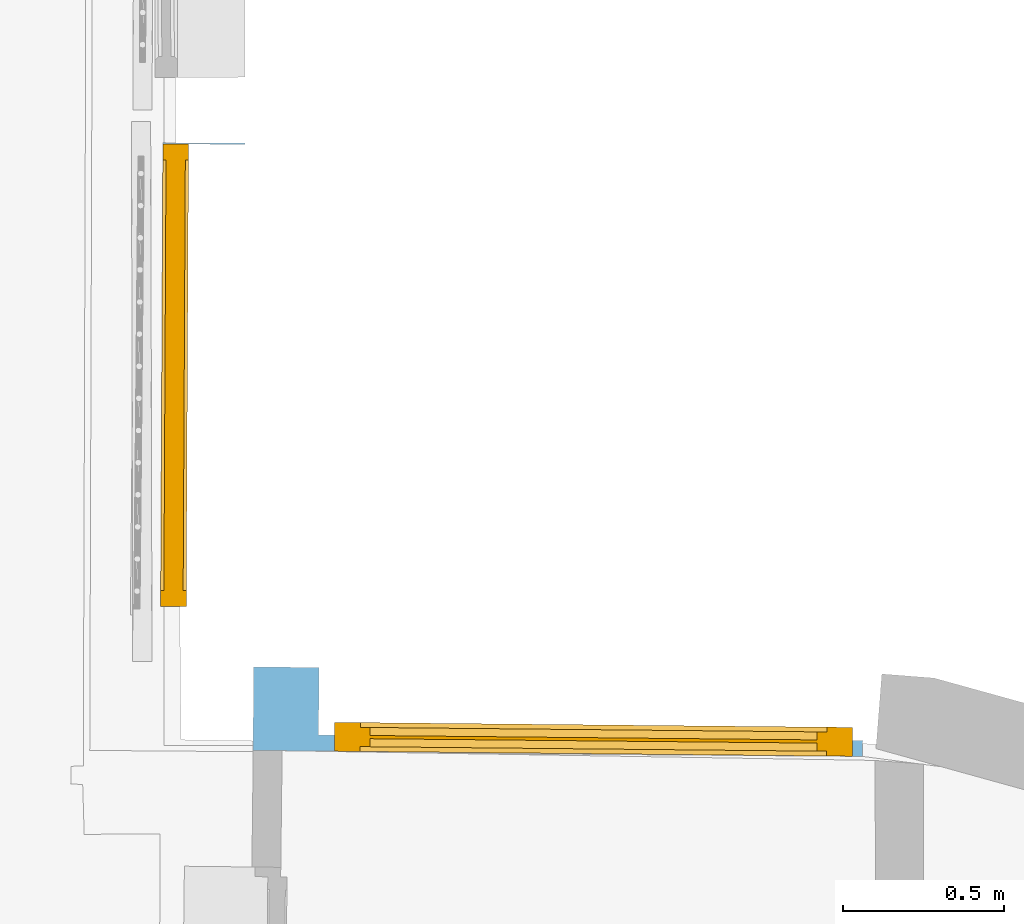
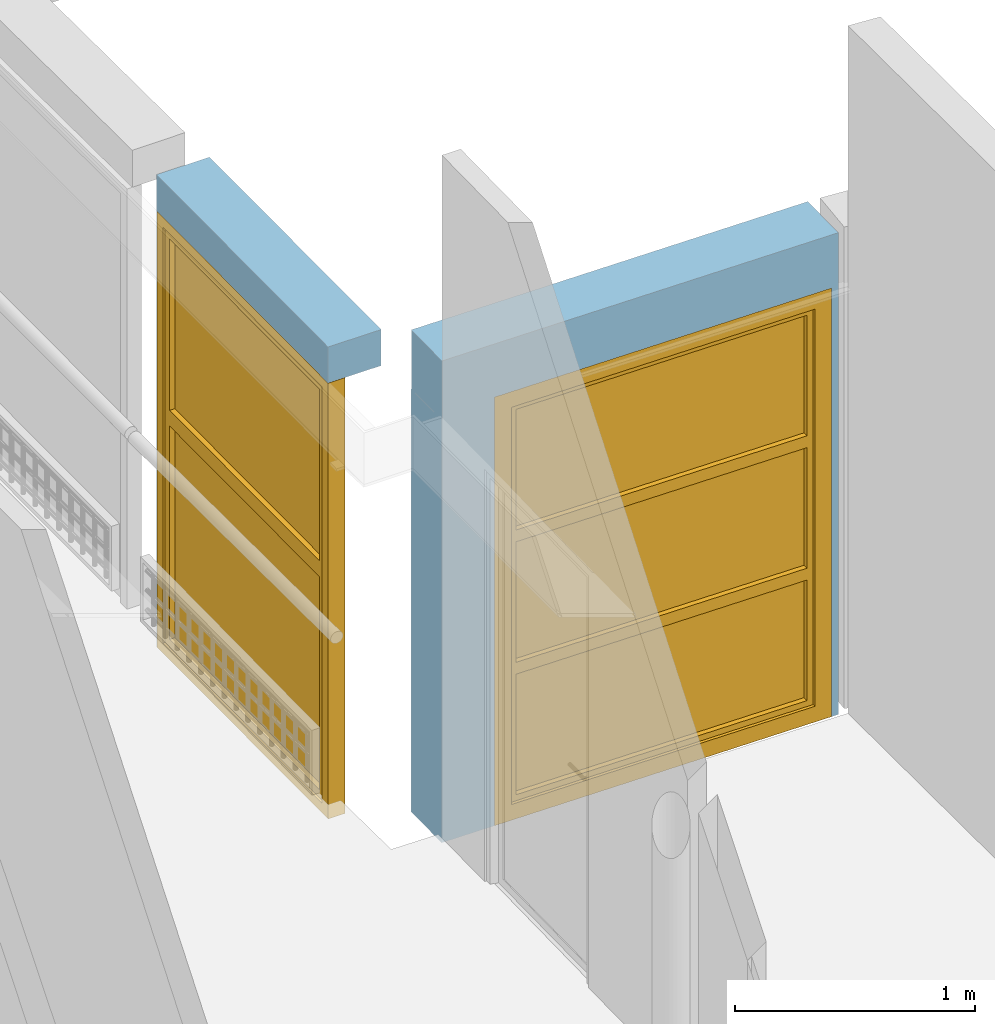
# One storey, part 55 of 72: 2 windows, 2 openings, plus 2 elements that do not belong to this part.
"""IFC2X3 building model written with IfcOpenShell, lengths in centimetres."""

from ifc_helpers import new_model, entity, si_unit, converted_unit, direction, frame, origin, origin_with_axes, origin_2d_with_axis, place, context, subcontext, project, spatial, polyline, rectangle, outline, extrude, clip, bounded_halfspace, faceted_brep, shape, source, transform, mapped, material, material_list, layer, layer_set, layer_usage, type_object, element, fill, save


model = new_model("IFC2X3")

# Units and contexts
model_context = context("Model", 3, precision=0.0001, world=origin(), true_north=direction((0.225632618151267, 0.974212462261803, 0.0)))
body_context = subcontext(model_context, "Body", "Model", "MODEL_VIEW")
footprint_context = subcontext(model_context, "FootPrint", "Model", "MODEL_VIEW")
profile_context = subcontext(model_context, "Profile", "Model", "MODEL_VIEW")
ifc_project = project(units=[si_unit("LENGTHUNIT", "METRE", prefix="CENTI"), si_unit("AREAUNIT", "SQUARE_METRE", prefix="CENTI"), si_unit("VOLUMEUNIT", "CUBIC_METRE", prefix="CENTI"), converted_unit("PLANEANGLEUNIT", "DEGREE", entity("IfcRatioMeasure", 0.0174532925), si_unit("PLANEANGLEUNIT", "RADIAN"), dimensions=[0, 0, 0, 0, 0, 0, 0])], contexts=[model_context])

# Site, building, storey
site_placement = place(None, origin_with_axes())
site = spatial("IfcSite", under=ifc_project, at=site_placement, Name="Default Site", CompositionType="ELEMENT")
building_placement = place(site_placement, origin_with_axes())
building = spatial("IfcBuilding", under=site, at=building_placement, Name="Default Building", CompositionType="ELEMENT")
storey_placement = place(building_placement, frame((0.0, 0.0, 853.910374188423), z_axis=(0.0, 0.0, 1.0), x_axis=(1.0, 0.0, 0.0)))
storey = spatial("IfcBuildingStorey", under=building, at=storey_placement, Name="Niveau 2", CompositionType="ELEMENT", Elevation=853.910374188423)

# Wall, opening, window
ifc_material_1 = material(Name="<aucun>")
ifc_layer_1 = layer(ifc_material_1, 26.0)
ifc_layer_set_1 = layer_set([ifc_layer_1], Name="default")
ifc_layer_usage_1 = layer_usage(ifc_layer_set_1, "AXIS2", "POSITIVE", -13.0)
wall_type_1 = type_object("IfcWallType", Name="default 260", PredefinedType="NOTDEFINED", material=ifc_layer_set_1)
wall_1_placement = place(storey_placement, frame((1291.15030565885, -210.44632109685, 7.8159700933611e-12), z_axis=(0.0, 0.0, 1.0), x_axis=(-0.999951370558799, 0.00986187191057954, 0.0)))
wall_1 = element("IfcWallStandardCase", 1, at=wall_1_placement, inside=storey, type_object=wall_type_1, material=ifc_layer_usage_1, Name="Enveloppe 537553", context=body_context, shape_type="Clipping", body=[
    clip(extrude(rectangle(XDim=26.0000371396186, YDim=189.785412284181, at=origin_2d_with_axis()), frame((96.6682236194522, -0.000186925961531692, 1.77635683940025e-13), z_axis=(0.0, 0.0, 1.0), x_axis=(1.40878318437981e-08, -1.0, 0.0)), (0.0, 0.0, 1.0), 244.999999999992), bounded_halfspace(frame((191.560929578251, 13.0000000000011, 214.999999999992), z_axis=(0.0, 0.0, -1.0), x_axis=(-1.0, 8.65800486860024e-14, 0.0)), True, frame((191.560929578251, 13.0000000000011, 214.999999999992), z_axis=(0.0, 0.0, 1.0), x_axis=(1.0, 0.0, 0.0)), polyline([(-0.150318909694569, -26.0), (1.77635683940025e-13, -26.0), (0.0, 0.0), (-0.0999999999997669, -4.44089209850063e-14), (-0.150318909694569, -26.0)]))),
])
opening_1_placement = place(wall_1_placement, frame((-1.77351466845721e-11, -2.8421709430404e-14, 3.5527136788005e-13), z_axis=(0.0, 0.0, 1.0), x_axis=(-1.0, -5.93969318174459e-15, 0.0)))
cartesian_point_1 = entity("IfcCartesianPoint", [0.0, 0.0, 218.0])
cartesian_point_2 = entity("IfcCartesianPoint", [-171.19581333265, -13.0])
opening_1 = element("IfcOpeningElement", 2, at=opening_1_placement, cuts=wall_1, Name="4294966493_11", ObjectType="Opening", shapes=[
    shape(body_context, "Body", "Brep", [faceted_brep([(-5.00004530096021, -32.9999935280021, 218.000007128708), (-166.195818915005, -32.9999935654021, 218.000007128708), (-166.195818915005, -32.9999935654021, -2.33888705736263e-05), (-5.00004530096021, -32.9999935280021, -2.33888705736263e-05), (2.5435651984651e-05, 32.9999991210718, -2.33888705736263e-05), (-171.195795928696, 32.9999990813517, -2.33888705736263e-05), (-171.195795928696, 32.9999990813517, 218.000007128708), (2.5435651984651e-05, 32.9999991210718, 218.000007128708), (-5.00004530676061, -7.99999300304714, -2.33888705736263e-05), (-5.00004530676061, -7.99999300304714, 218.000007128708), (-4.99997192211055, -7.99999300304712, 218.000007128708), (-4.99997192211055, -7.99999300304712, -2.33888705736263e-05), (4.15408170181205e-06, -7.99999300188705, -2.33888705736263e-05), (4.15408170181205e-06, -7.99999300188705, 218.000007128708), (4.15408170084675e-06, -7.99998884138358, 218.000007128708), (4.15408170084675e-06, -7.99998884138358, -2.33888705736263e-05), (4.14456904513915e-06, 32.9999991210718, -2.33888705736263e-05), (4.14456904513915e-06, 32.9999991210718, 218.000007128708), (-166.195818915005, -33.0000058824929, -2.33888705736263e-05), (-166.195840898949, -8.00000629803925, -2.33888705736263e-05), (-171.195816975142, -8.00001045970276, -2.33888705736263e-05), (-171.195795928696, 33.0000013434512, -2.33888705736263e-05), (-166.195818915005, -33.0000058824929, 218.000007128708), (-166.195818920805, -8.00000629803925, 218.000007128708), (-166.195818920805, -8.00000629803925, -2.33888705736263e-05), (-166.195840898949, -8.00000629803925, 218.000007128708), (-171.195816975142, -8.00000629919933, 218.000007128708), (-171.195816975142, -8.00000629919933, -2.33888705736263e-05), (-171.195816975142, -8.00001045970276, 218.000007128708), (-171.195816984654, 33.0000013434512, 218.000007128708), (-171.195816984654, 33.0000013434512, -2.33888705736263e-05), (-171.195795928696, 33.0000013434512, 218.000007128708)], [[[0, 1, 2, 3]], [[4, 5, 6, 7]], [[0, 3, 8, 9]], [[10, 11, 12, 13]], [[14, 15, 16, 17]], [[3, 18, 19, 20, 21, 4, 15, 11]], [[18, 22, 23, 24]], [[19, 25, 26, 27]], [[20, 28, 29, 30]], [[10, 14, 7, 31, 28, 25, 22, 0]]])]),
    shape(profile_context, "Profile", "GeometricCurveSet", [entity("IfcGeometricCurveSet", [entity("IfcPolyline", [cartesian_point_1, entity("IfcCartesianPoint", [0.0, 0.0, 0.0]), entity("IfcCartesianPoint", [-171.19581333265, -2.22044604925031e-14, 0.0]), entity("IfcCartesianPoint", [-171.19581333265, -2.22044604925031e-14, 218.0]), cartesian_point_1])])]),
    shape(footprint_context, "FootPrint", "GeometricCurveSet", [entity("IfcGeometricCurveSet", [entity("IfcPolyline", [cartesian_point_2, entity("IfcCartesianPoint", [0.0, -13.0]), entity("IfcCartesianPoint", [1.77635683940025e-13, 13.0]), entity("IfcCartesianPoint", [-171.19581333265, 13.0]), cartesian_point_2])])]),
])
ifc_material_2 = material(Name="Transparent")
ifc_material_3 = material(Name="Blanc trafic")
ifc_material_list = material_list([ifc_material_2, ifc_material_3])
window_style_1 = type_object("IfcWindowStyle", Name="Fn 1 montant fixe 2 vitres ép 90", ConstructionType="NOTDEFINED", OperationType="TRIPLE_PANEL_HORIZONTAL", ParameterTakesPrecedence=True, Sizeable=False, material=ifc_material_list)
shared_shape_1 = source(origin_with_axes(), body_context, "Body", "Brep", [
    faceted_brep([(-72.5979089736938, 209.999990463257, -4.50000017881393), (-72.5979089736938, 209.999990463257, 4.50000017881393), (-72.5979089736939, 7.99999982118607, 4.50000017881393), (-72.5979089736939, 7.99999982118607, -4.50000017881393), (-80.5979073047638, 218.00000667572, 4.50000017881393), (-80.5979073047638, 2.22044604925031e-14, 4.50000017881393), (-72.5979089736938, 7.99999982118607, 4.50000017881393), (-80.5979073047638, 218.00000667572, -4.50000017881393), (-80.5979073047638, 2.22044604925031e-14, -4.50000017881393), (-72.5979089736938, 7.99999982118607, -4.50000017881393), (72.5979089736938, 7.99999982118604, 4.50000017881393), (72.5979089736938, 7.99999982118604, -4.50000017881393), (80.5979073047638, 2.22044604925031e-14, 4.50000017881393), (72.5979089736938, 7.99999982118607, 4.50000017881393), (80.5979073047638, 2.22044604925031e-14, -4.50000017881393), (72.5979089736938, 7.99999982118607, -4.50000017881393), (72.5979089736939, 209.999990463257, 4.50000017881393), (72.5979089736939, 209.999990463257, -4.50000017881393), (80.5979073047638, 218.00000667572, 4.50000017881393), (72.5979089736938, 209.999990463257, 4.50000017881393), (80.5979073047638, 218.00000667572, -4.50000017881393), (72.5979089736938, 209.999990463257, -4.50000017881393)], [[[0, 1, 2, 3]], [[1, 4, 5, 6]], [[4, 7, 8, 5]], [[7, 0, 9, 8]], [[9, 6, 10, 11]], [[6, 5, 12, 13]], [[5, 8, 14, 12]], [[8, 9, 15, 14]], [[15, 13, 16, 17]], [[13, 12, 18, 19]], [[12, 14, 20, 18]], [[14, 15, 21, 20]], [[21, 19, 1, 0]], [[19, 18, 4, 1]], [[18, 20, 7, 4]], [[20, 21, 0, 7]]]),
    faceted_brep([(-69.5979058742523, 206.99999332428, -2.99999993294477), (-69.5979058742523, 206.99999332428, 2.99999993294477), (-69.5979058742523, 145.666670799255, 2.99999993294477), (-69.5979058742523, 145.666670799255, -2.99999993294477), (-72.5979089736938, 209.999990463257, 2.99999993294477), (-72.5979089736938, 142.666661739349, 2.99999993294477), (-72.5979089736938, 209.999990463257, -2.99999993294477), (-72.5979089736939, 142.666661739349, -2.99999993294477), (-72.5979089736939, 142.666661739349, 2.99999993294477), (-72.5979089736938, 142.666661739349, -2.99999993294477), (69.5979058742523, 145.666670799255, 2.99999993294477), (69.5979058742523, 145.666670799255, -2.99999993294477), (72.5979089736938, 142.666661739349, 2.99999993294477), (72.5979089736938, 142.666661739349, -2.99999993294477), (69.5979058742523, 206.99999332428, 2.99999993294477), (69.5979058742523, 206.99999332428, -2.99999993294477), (72.5979089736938, 209.999990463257, 2.99999993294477), (69.5979058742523, 206.99999332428, 2.99999993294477), (72.5979089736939, 209.999990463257, -2.99999993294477), (72.5979089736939, 209.999990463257, 2.99999993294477), (69.5979058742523, 206.99999332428, -2.99999993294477), (72.5979089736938, 209.999990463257, -2.99999993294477)], [[[0, 1, 2, 3]], [[1, 4, 5, 2]], [[4, 6, 7, 8]], [[6, 0, 3, 9]], [[3, 2, 10, 11]], [[2, 5, 12, 10]], [[5, 9, 13, 12]], [[9, 3, 11, 13]], [[11, 10, 14, 15]], [[10, 12, 16, 17]], [[12, 13, 18, 19]], [[13, 11, 20, 21]], [[20, 17, 1, 0]], [[17, 16, 4, 1]], [[16, 21, 6, 4]], [[21, 20, 0, 6]]]),
    faceted_brep([(69.5979058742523, 206.99999332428, -0.499999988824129), (69.5979058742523, 145.666670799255, -0.499999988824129), (-69.5979058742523, 145.666670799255, -0.499999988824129), (-69.5979058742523, 206.99999332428, -0.499999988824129), (-69.5979058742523, 206.99999332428, 0.499999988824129), (-69.5979058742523, 145.666670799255, 0.499999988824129), (69.5979058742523, 145.666670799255, 0.499999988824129), (69.5979058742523, 206.99999332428, 0.499999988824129), (69.5979058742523, 206.99999332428, -0.499999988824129), (69.5979058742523, 206.99999332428, 0.499999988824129)], [[[0, 1, 2, 3]], [[4, 5, 6, 7]], [[3, 2, 5, 4]], [[2, 1, 6, 5]], [[1, 8, 9, 6]], [[0, 3, 4, 7]]]),
    faceted_brep([(-69.5979058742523, 139.666664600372, -2.99999993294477), (-69.5979058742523, 139.666664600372, 2.99999993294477), (-69.5979058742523, 78.3333361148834, 2.99999993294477), (-69.5979058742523, 78.3333361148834, -2.99999993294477), (-72.5979089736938, 142.666661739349, 2.99999993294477), (-72.5979089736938, 75.3333330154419, 2.99999993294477), (-72.5979089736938, 142.666661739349, -2.99999993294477), (-72.5979089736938, 75.3333330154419, -2.99999993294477), (69.5979058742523, 78.3333361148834, 2.99999993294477), (69.5979058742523, 78.3333361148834, -2.99999993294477), (72.5979089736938, 75.3333330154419, 2.99999993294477), (72.5979089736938, 75.3333330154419, -2.99999993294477), (69.5979058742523, 139.666664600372, 2.99999993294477), (69.5979058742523, 139.666664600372, -2.99999993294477), (72.5979089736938, 142.666661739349, 2.99999993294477), (72.5979089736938, 142.666661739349, -2.99999993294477)], [[[0, 1, 2, 3]], [[1, 4, 5, 2]], [[4, 6, 7, 5]], [[6, 0, 3, 7]], [[3, 2, 8, 9]], [[2, 5, 10, 8]], [[5, 7, 11, 10]], [[7, 3, 9, 11]], [[9, 8, 12, 13]], [[8, 10, 14, 12]], [[10, 11, 15, 14]], [[11, 9, 13, 15]], [[13, 12, 1, 0]], [[12, 14, 4, 1]], [[14, 15, 6, 4]], [[15, 13, 0, 6]]]),
    faceted_brep([(69.5979058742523, 139.666664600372, -0.499999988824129), (69.5979058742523, 78.3333361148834, -0.499999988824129), (-69.5979058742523, 78.3333361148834, -0.499999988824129), (-69.5979058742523, 139.666664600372, -0.499999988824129), (-69.5979058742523, 139.666664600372, 0.499999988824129), (-69.5979058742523, 78.3333361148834, 0.499999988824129), (69.5979058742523, 78.3333361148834, 0.499999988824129), (69.5979058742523, 139.666664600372, 0.499999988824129)], [[[0, 1, 2, 3]], [[4, 5, 6, 7]], [[3, 2, 5, 4]], [[2, 1, 6, 5]], [[1, 0, 7, 6]], [[0, 3, 4, 7]]]),
    faceted_brep([(-69.5979058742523, 72.3333358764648, -2.99999993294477), (-69.5979058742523, 72.3333358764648, 2.99999993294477), (-69.5979058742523, 10.9999999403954, 2.99999993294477), (-69.5979058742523, 10.9999999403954, -2.99999993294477), (-72.5979089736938, 75.3333330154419, 2.99999993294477), (-72.5979089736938, 7.99999982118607, 2.99999993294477), (-72.5979089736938, 75.3333330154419, -2.99999993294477), (-72.5979089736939, 7.99999982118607, -2.99999993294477), (-72.5979089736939, 7.99999982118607, 2.99999993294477), (-72.5979089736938, 7.99999982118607, -2.99999993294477), (69.5979058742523, 10.9999999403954, 2.99999993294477), (69.5979058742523, 10.9999999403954, -2.99999993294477), (72.5979089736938, 7.99999982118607, 2.99999993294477), (72.5979089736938, 7.99999982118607, -2.99999993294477), (69.5979058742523, 72.3333358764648, 2.99999993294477), (69.5979058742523, 72.3333358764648, -2.99999993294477), (72.5979089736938, 75.3333330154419, 2.99999993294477), (69.5979058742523, 72.3333358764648, 2.99999993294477), (72.5979089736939, 75.3333330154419, -2.99999993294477), (72.5979089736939, 75.3333330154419, 2.99999993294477), (69.5979058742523, 72.3333358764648, -2.99999993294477), (72.5979089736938, 75.3333330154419, -2.99999993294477)], [[[0, 1, 2, 3]], [[1, 4, 5, 2]], [[4, 6, 7, 8]], [[6, 0, 3, 9]], [[3, 2, 10, 11]], [[2, 5, 12, 10]], [[5, 9, 13, 12]], [[9, 3, 11, 13]], [[11, 10, 14, 15]], [[10, 12, 16, 17]], [[12, 13, 18, 19]], [[13, 11, 20, 21]], [[20, 17, 1, 0]], [[17, 16, 4, 1]], [[16, 21, 6, 4]], [[21, 20, 0, 6]]]),
    faceted_brep([(69.5979058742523, 72.3333358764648, -0.499999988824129), (69.5979058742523, 10.9999999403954, -0.499999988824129), (-69.5979058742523, 10.9999999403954, -0.499999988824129), (-69.5979058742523, 72.3333358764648, -0.499999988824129), (-69.5979058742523, 72.3333358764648, 0.499999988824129), (-69.5979058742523, 10.9999999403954, 0.499999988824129), (69.5979058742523, 10.9999999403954, 0.499999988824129), (69.5979058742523, 72.3333358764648, 0.499999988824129), (69.5979058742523, 72.3333358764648, -0.499999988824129), (69.5979058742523, 72.3333358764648, 0.499999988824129)], [[[0, 1, 2, 3]], [[4, 5, 6, 7]], [[3, 2, 5, 4]], [[2, 1, 6, 5]], [[1, 8, 9, 6]], [[0, 3, 4, 7]]]),
])
window_1_placement = place(opening_1_placement, frame((-166.19581333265, -13.0, -1.77635683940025e-15), z_axis=(0.0, 0.0, 1.0), x_axis=(1.0, 0.0, 0.0)))
window_1 = element("IfcWindow", 3, at=window_1_placement, inside=storey, type_object=window_style_1, material=ifc_material_list, Name="Fenêtre 551114", OverallHeight=218.0, OverallWidth=161.19581333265, context=body_context, shape_type="MappedRepresentation", body=[
    mapped(shared_shape_1, transform((80.5979066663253, 4.49999999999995, 0.0), x_axis=(-1.0, 0.0, 0.0), y_axis=(0.0, 0.0, 1.0), z_axis=(0.0, 1.0, 0.0), scale=1.0, scale2=1.0, scale3=1.0, uniform=False)),
])
fill(opening_1, window_1)

ifc_layer_2 = layer(ifc_material_1, 25.5)
ifc_layer_set_2 = layer_set([ifc_layer_2], Name="default")
ifc_layer_usage_2 = layer_usage(ifc_layer_set_2, "AXIS2", "POSITIVE", -12.75)
wall_type_2 = type_object("IfcWallType", Name="default 255", PredefinedType="NOTDEFINED", material=ifc_layer_set_2)
wall_2_placement = place(storey_placement, frame((1083.47369991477, -176.791939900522, -5.00000000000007), z_axis=(0.0, 0.0, 1.0), x_axis=(0.00502234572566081, 0.999987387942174, 0.0)))
wall_2 = element("IfcWallStandardCase", 4, at=wall_2_placement, inside=storey, type_object=wall_type_2, material=ifc_layer_usage_2, Name="Enveloppe 728289", context=body_context, shape_type="SweptSolid", body=[
    extrude(rectangle(XDim=144.247514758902, YDim=25.4999999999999, at=origin_2d_with_axis()), frame((72.2010637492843, 0.00023335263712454, 1.06581410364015e-12), z_axis=(0.0, 0.0, 1.0), x_axis=(0.999999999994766, 3.23544758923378e-06, 0.0)), (0.0, 0.0, 1.0), 239.999999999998),
])
opening_2_placement = place(wall_2_placement, frame((-0.00707307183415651, 2.27373675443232e-13, -2.4297279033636e-05), z_axis=(0.0, 0.0, 1.0), x_axis=(-1.0, -1.99493199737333e-17, 0.0)))
cartesian_point_3 = entity("IfcCartesianPoint", [-2.22044604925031e-14, 0.0, 221.677255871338])
cartesian_point_4 = entity("IfcCartesianPoint", [-143.934555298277, -12.7499999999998])
opening_2 = element("IfcOpeningElement", 5, at=opening_2_placement, cuts=wall_2, Name="4294966484_11", ObjectType="Opening", shapes=[
    shape(body_context, "Body", "SweptSolid", [extrude(outline(polyline([(2.22044604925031e-14, 221.677255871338), (0.0, 0.0), (143.934555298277, 0.0), (143.934555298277, 221.677255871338), (2.22044604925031e-14, 221.677255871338)])), frame((0.0, -22.75, 0.0), z_axis=(0.0, 1.0, 0.0), x_axis=(-1.0, 0.0, 0.0)), (0.0, 0.0, 1.0), 45.5)]),
    shape(profile_context, "Profile", "GeometricCurveSet", [entity("IfcGeometricCurveSet", [entity("IfcPolyline", [cartesian_point_3, entity("IfcCartesianPoint", [0.0, 0.0, 0.0]), entity("IfcCartesianPoint", [-143.934555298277, 1.77635683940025e-13, 0.0]), entity("IfcCartesianPoint", [-143.934555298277, 1.77635683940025e-13, 221.677255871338]), cartesian_point_3])])]),
    shape(footprint_context, "FootPrint", "GeometricCurveSet", [entity("IfcGeometricCurveSet", [entity("IfcPolyline", [cartesian_point_4, entity("IfcCartesianPoint", [0.0, -12.7499999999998]), entity("IfcCartesianPoint", [-2.22044604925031e-14, 12.7500000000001]), entity("IfcCartesianPoint", [-143.934555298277, 12.7500000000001]), cartesian_point_4])])]),
])
window_style_2 = type_object("IfcWindowStyle", Name="FN fixe 1 section", ConstructionType="NOTDEFINED", OperationType="NOTDEFINED", ParameterTakesPrecedence=True, Sizeable=False, material=ifc_material_list)
shared_shape_2 = source(origin_with_axes(), body_context, "Body", "Brep", [
    faceted_brep([(-66.9672787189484, 216.677260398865, -3.99999991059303), (-66.9672787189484, 216.677260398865, 3.99999991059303), (-66.9672787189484, 5.00000007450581, 3.99999991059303), (-66.9672787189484, 5.00000007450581, -3.99999991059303), (-71.9672799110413, 221.677255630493, 3.99999991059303), (-71.9672799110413, 1.77635683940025e-13, 3.99999991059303), (-71.9672799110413, 221.677255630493, -3.99999991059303), (-71.9672799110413, 1.77635683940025e-13, -3.99999991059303), (66.9672787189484, 5.00000007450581, 3.99999991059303), (66.9672787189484, 5.00000007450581, -3.99999991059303), (71.9672799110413, 1.77635683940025e-13, 3.99999991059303), (71.9672799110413, 1.77635683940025e-13, -3.99999991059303), (66.9672787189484, 216.677260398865, 3.99999991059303), (66.9672787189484, 216.677260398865, -3.99999991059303), (71.9672799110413, 221.677255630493, 3.99999991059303), (71.9672799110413, 221.677255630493, -3.99999991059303)], [[[0, 1, 2, 3]], [[1, 4, 5, 2]], [[4, 6, 7, 5]], [[6, 0, 3, 7]], [[3, 2, 8, 9]], [[2, 5, 10, 8]], [[5, 7, 11, 10]], [[7, 3, 9, 11]], [[9, 8, 12, 13]], [[8, 10, 14, 12]], [[10, 11, 15, 14]], [[11, 9, 13, 15]], [[13, 12, 1, 0]], [[12, 14, 4, 1]], [[14, 15, 6, 4]], [[15, 13, 0, 6]]]),
    faceted_brep([(-62.9672765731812, 117.422485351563, -2.99999993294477), (-62.9672765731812, 117.422485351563, 2.99999993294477), (-62.9672765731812, 9.00000035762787, 2.99999993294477), (-62.9672765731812, 9.00000035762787, -2.99999993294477), (-66.9672787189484, 121.422493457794, 2.99999993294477), (-66.9672787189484, 5.00000007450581, 2.99999993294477), (-66.9672787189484, 121.422493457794, -2.99999993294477), (-66.9672787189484, 5.00000007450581, -2.99999993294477), (62.9672765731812, 9.00000035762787, 2.99999993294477), (62.9672765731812, 9.00000035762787, -2.99999993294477), (66.9672787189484, 5.00000007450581, 2.99999993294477), (66.9672787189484, 5.00000007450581, -2.99999993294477), (62.9672765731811, 117.422485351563, 2.99999993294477), (62.9672765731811, 117.422485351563, -2.99999993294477), (66.9672787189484, 121.422493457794, 2.99999993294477), (62.9672765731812, 117.422485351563, 2.99999993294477), (66.9672787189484, 121.422493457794, -2.99999993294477), (62.9672765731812, 117.422485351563, -2.99999993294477)], [[[0, 1, 2, 3]], [[1, 4, 5, 2]], [[4, 6, 7, 5]], [[6, 0, 3, 7]], [[3, 2, 8, 9]], [[2, 5, 10, 8]], [[5, 7, 11, 10]], [[7, 3, 9, 11]], [[9, 8, 12, 13]], [[8, 10, 14, 15]], [[10, 11, 16, 14]], [[11, 9, 17, 16]], [[17, 15, 1, 0]], [[15, 14, 4, 1]], [[14, 16, 6, 4]], [[16, 17, 0, 6]]]),
    faceted_brep([(62.9672765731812, 117.422485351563, -0.499999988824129), (62.9672765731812, 9.00000035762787, -0.499999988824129), (-62.9672765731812, 9.00000035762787, -0.499999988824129), (-62.9672765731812, 117.422485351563, -0.499999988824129), (-62.9672765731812, 117.422485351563, 0.499999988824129), (-62.9672765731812, 9.00000035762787, 0.499999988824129), (62.9672765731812, 9.00000035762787, 0.499999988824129), (62.9672765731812, 117.422485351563, 0.499999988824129)], [[[0, 1, 2, 3]], [[4, 5, 6, 7]], [[3, 2, 5, 4]], [[2, 1, 6, 5]], [[1, 0, 7, 6]], [[0, 3, 4, 7]]]),
    faceted_brep([(-62.9672765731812, 212.677264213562, -2.99999993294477), (-62.9672765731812, 212.677264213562, 2.99999993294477), (-62.9672765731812, 125.422489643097, 2.99999993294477), (-62.9672765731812, 125.422489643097, -2.99999993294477), (-66.9672787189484, 216.677260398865, 2.99999993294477), (-66.9672787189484, 121.422493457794, 2.99999993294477), (-66.9672787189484, 216.677260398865, -2.99999993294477), (-66.9672787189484, 121.422493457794, -2.99999993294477), (62.9672765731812, 125.422489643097, 2.99999993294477), (62.9672765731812, 125.422489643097, -2.99999993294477), (66.9672787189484, 121.422493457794, 2.99999993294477), (66.9672787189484, 121.422493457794, -2.99999993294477), (62.9672765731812, 212.677264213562, 2.99999993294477), (62.9672765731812, 212.677264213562, -2.99999993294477), (66.9672787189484, 216.677260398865, 2.99999993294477), (66.9672787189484, 216.677260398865, -2.99999993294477)], [[[0, 1, 2, 3]], [[1, 4, 5, 2]], [[4, 6, 7, 5]], [[6, 0, 3, 7]], [[3, 2, 8, 9]], [[2, 5, 10, 8]], [[5, 7, 11, 10]], [[7, 3, 9, 11]], [[9, 8, 12, 13]], [[8, 10, 14, 12]], [[10, 11, 15, 14]], [[11, 9, 13, 15]], [[13, 12, 1, 0]], [[12, 14, 4, 1]], [[14, 15, 6, 4]], [[15, 13, 0, 6]]]),
    faceted_brep([(62.9672765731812, 212.677264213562, -0.499999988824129), (62.9672765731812, 125.422489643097, -0.499999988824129), (-62.9672765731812, 125.422489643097, -0.499999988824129), (-62.9672765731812, 212.677264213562, -0.499999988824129), (-62.9672765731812, 212.677264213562, 0.499999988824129), (-62.9672765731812, 125.422489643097, 0.499999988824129), (62.9672765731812, 125.422489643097, 0.499999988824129), (62.9672765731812, 212.677264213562, 0.499999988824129)], [[[0, 1, 2, 3]], [[4, 5, 6, 7]], [[3, 2, 5, 4]], [[2, 1, 6, 5]], [[1, 0, 7, 6]], [[0, 3, 4, 7]]]),
])
window_2_placement = place(opening_2_placement, frame((-143.934555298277, -12.75, 0.0), z_axis=(0.0, 0.0, 1.0), x_axis=(1.0, 0.0, 0.0)))
window_2 = element("IfcWindow", 6, at=window_2_placement, inside=storey, type_object=window_style_2, material=ifc_material_list, Name="Fenêtre 728353", OverallHeight=221.677255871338, OverallWidth=143.934555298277, context=body_context, shape_type="MappedRepresentation", body=[
    mapped(shared_shape_2, transform((71.9672776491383, 3.99999999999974, 0.0), x_axis=(-1.0, 0.0, 0.0), y_axis=(0.0, 0.0, 1.0), z_axis=(0.0, 1.0, 0.0), scale=1.0, scale2=1.0, scale3=1.0, uniform=False)),
])
fill(opening_2, window_2)

save(model, "model.ifc")
